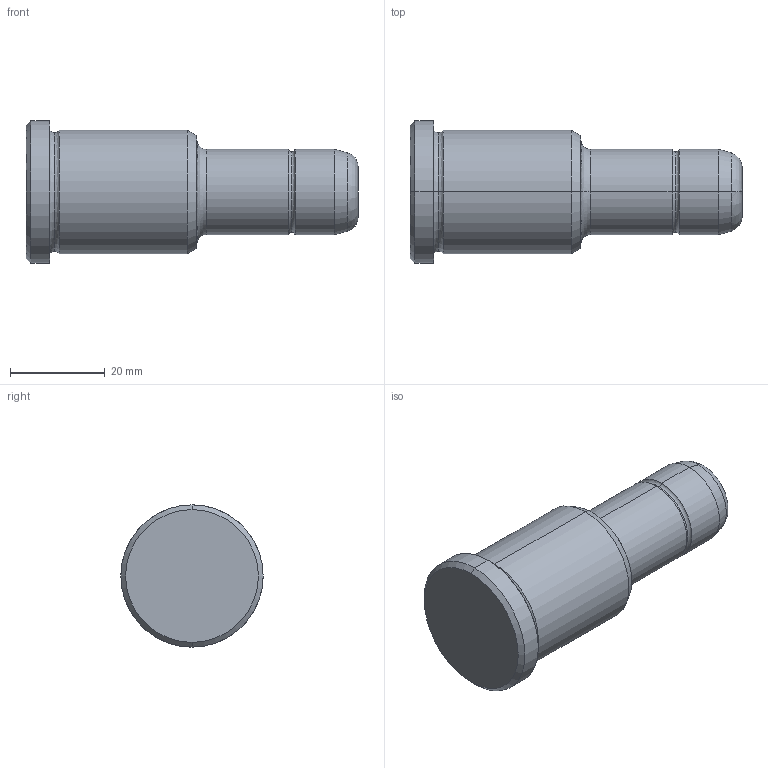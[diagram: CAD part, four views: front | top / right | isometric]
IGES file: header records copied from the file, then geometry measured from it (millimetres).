
Start section: START RECORD GO HERE.
Global section: file name: 351-18X36X70.igs; native system: DASSAULT SYSTEMES CATIA V5 R20 - www.3ds.com; preprocessor: CATIA Version 5 Release 20 ; author: Utente; organization: NB04-ASUS; date: 20210819.144404; units: millimetre
Bounding box: 70 x 30 x 30 mm (x, y, z)
Surface area: 6088.4 mm2 (no closed solid volume)
Topology: 0 solids, 0 shells, 30 faces, 172 edges, 172 vertices
Faces by surface type: revolution 26, plane 4
